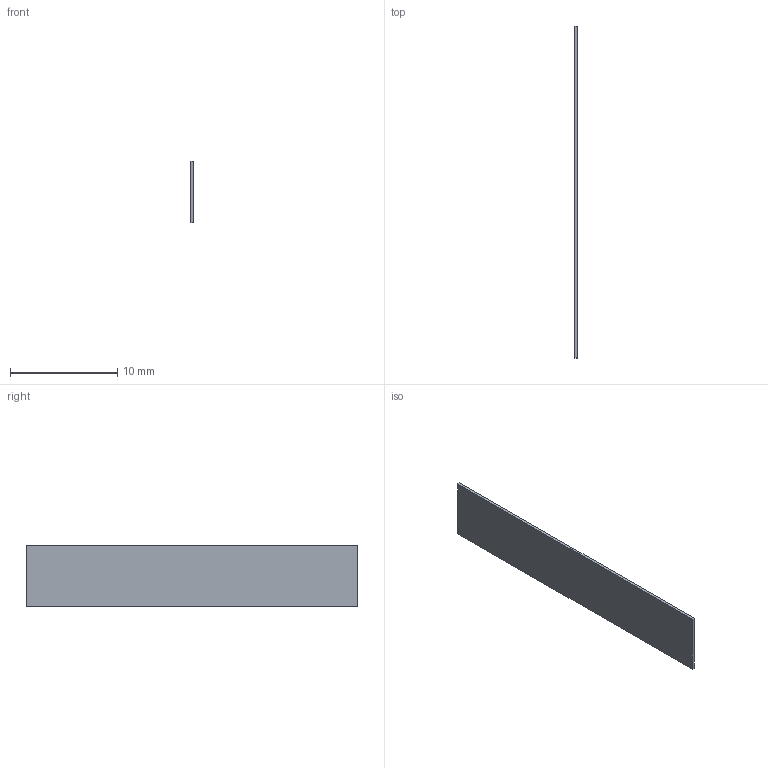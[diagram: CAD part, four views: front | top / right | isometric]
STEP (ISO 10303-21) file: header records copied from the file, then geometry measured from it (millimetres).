
FILE_DESCRIPTION(/* description */ (''),/* implementation_level */ '2;1');
FILE_NAME(/* name */ 'C27_R2_Battery_Side_Liner_1.step',/* time_stamp */ '2026-09-10T17:48:57-07:00',/* author */ (''),/* organization */ (''),/* preprocessor_version */ 'ST-DEVELOPER v20.1',/* originating_system */ 'Autodesk Translation Framework v15.8.0.0',/* authorisation */ '');
FILE_SCHEMA (('AUTOMOTIVE_DESIGN { 1 0 10303 214 3 1 1 }'));
Length unit declared in the file: millimetre
Products named in the file (1): 2026-09-10-17-48-57-573
Bounding box: 0.26 x 31 x 5.7 mm (x, y, z)
Volume: 45.9 mm3; surface area: 372.5 mm2
Topology: 1 solids, 1 shells, 6 faces, 12 edges, 8 vertices
Faces by surface type: plane 6
Entity records: 189 total; most frequent: CARTESIAN_POINT 27, DIRECTION 26, ORIENTED_EDGE 24, LINE 12, VECTOR 12, EDGE_CURVE 12, VERTEX_POINT 8, AXIS2_PLACEMENT_3D 7
